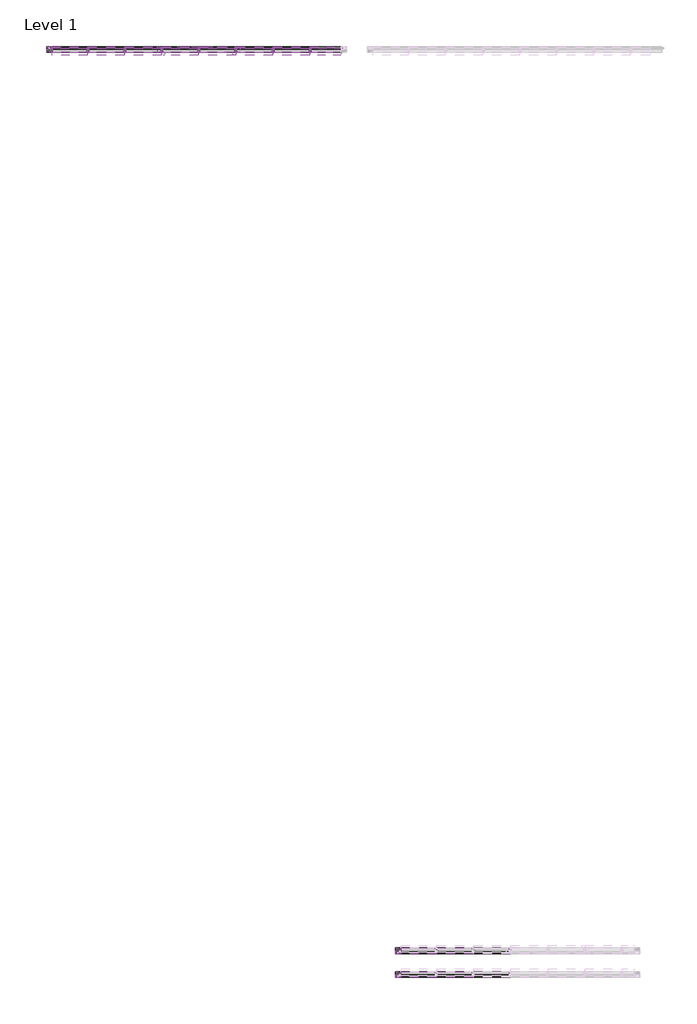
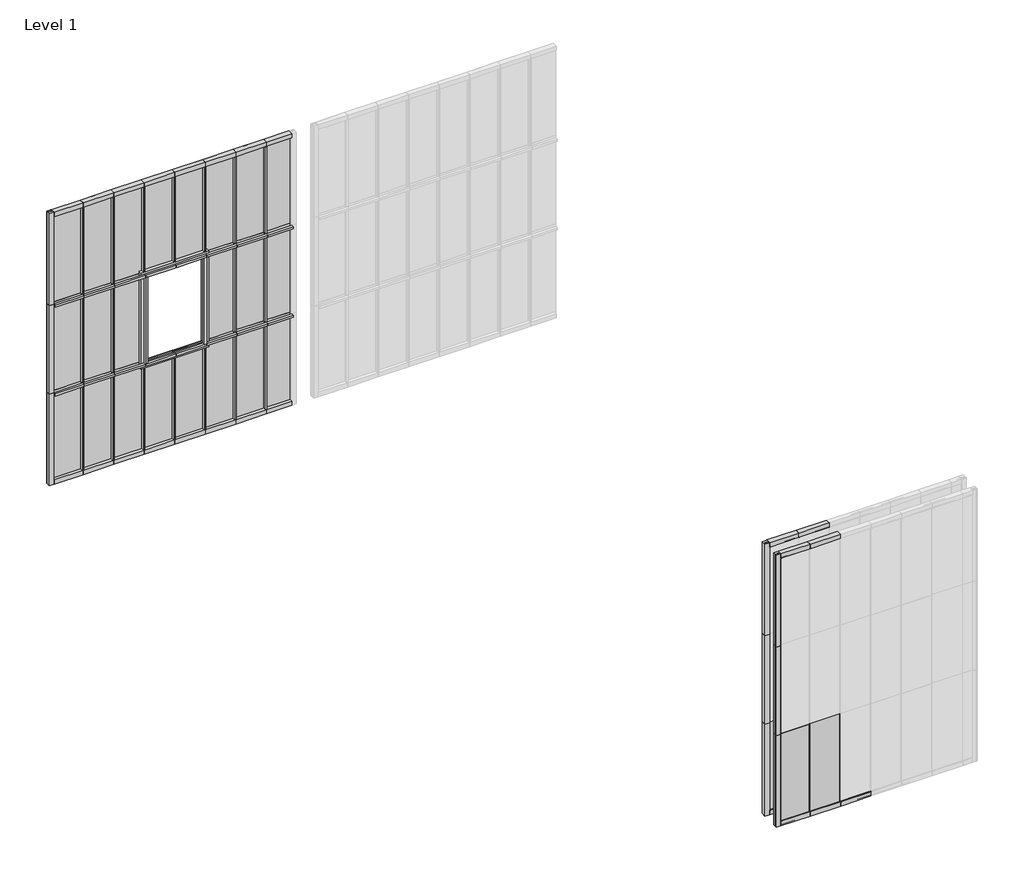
# One storey, part 1 of 3: 74 members, 27 plates.
"""IFC4 building model written with IfcOpenShell, lengths in millimetres."""

from ifc_helpers import new_model, si_unit, origin, place, context, project, spatial, transform, mapped, element, save
from components import rectangular_mullion_8ffd4793, rectangular_mullion_ef4c3dbc, rectangular_mullion_a341a077, rectangular_mullion_7fd34434, rectangular_mullion_f4b86b5b, rectangular_mullion_f51daa18, rectangular_mullion_e8e8685e, rectangular_mullion_af7c33be, rectangular_mullion_9c042f3e, rectangular_mullion_367668c4, rectangular_mullion_1778ee46, rectangular_mullion_ea144f86, rectangular_mullion_4a3f3de7, rectangular_mullion_05b556cc, rectangular_mullion_7f2ec0c3, rectangular_mullion_879f446c, rectangular_mullion_d35b6d32, rectangular_mullion_5309cee7, plate_8215ef0c, plate_1633828d, plate_0e341a54, plate_991e255f

model = new_model("IFC4")

# Units and contexts
model_context = context("Model", 3, world=origin())
ifc_project = project(units=[si_unit("LENGTHUNIT", "METRE", prefix="MILLI")], contexts=[model_context])

# Site, building, storey
site = spatial("IfcSite", under=ifc_project)
building = spatial("IfcBuilding", under=site)
storey = spatial("IfcBuildingStorey", under=building, Name="Level 1", Elevation=0.0)

# Members
placement = place(None, origin())
rectangular_mullion_shape = rectangular_mullion_8ffd4793(model_context)
element("IfcMember", 1, ObjectType="Rectangular Mullion : Danpal_NM_InetrnalV-Mullion", at=placement, inside=storey, context=model_context, shape_type="MappedRepresentation", body=[
    mapped(rectangular_mullion_shape, transform((1883.7454106, 2937.5512666, 81.8779002), x_axis=(1.0, 0.0, 0.0), y_axis=(0.0, -1.0, 0.0), z_axis=(0.0, 0.0, -1.0))),
])
element("IfcMember", 2, ObjectType="Rectangular Mullion : Danpal_NM_InetrnalV-Mullion", at=placement, inside=storey, context=model_context, shape_type="MappedRepresentation", body=[
    mapped(rectangular_mullion_shape, transform((1352.5454106, 2937.5512666, 81.8779002), x_axis=(1.0, 0.0, 0.0), y_axis=(0.0, -1.0, 0.0), z_axis=(0.0, 0.0, -1.0))),
])
element("IfcMember", 3, ObjectType="Rectangular Mullion : Danpal_NM_InetrnalV-Mullion", at=placement, inside=storey, context=model_context, shape_type="MappedRepresentation", body=[
    mapped(rectangular_mullion_shape, transform((1883.7454106, 2597.5512666, 81.8779002), x_axis=(1.0, 0.0, 0.0), y_axis=(0.0, -1.0, 0.0), z_axis=(0.0, 0.0, -1.0))),
])
rectangular_mullion_2_shape = rectangular_mullion_ef4c3dbc(model_context)
element("IfcMember", 4, ObjectType="Rectangular Mullion : Danpal_NM_End-Mullion_B1", at=placement, inside=storey, context=model_context, shape_type="MappedRepresentation", body=[
    mapped(rectangular_mullion_2_shape, transform((764.2822678, 2937.5512666, 5000.0), x_axis=(-1.0, 0.0, 0.0), y_axis=(0.0, -1.0, 0.0), z_axis=(0.0, 0.0, 1.0))),
])
element("IfcMember", 5, ObjectType="Rectangular Mullion : Danpal_NM_End-Mullion_B1", at=placement, inside=storey, context=model_context, shape_type="MappedRepresentation", body=[
    mapped(rectangular_mullion_2_shape, transform((764.2822678, 2597.5512666, 5000.0), x_axis=(-1.0, 0.0, 0.0), y_axis=(0.0, -1.0, 0.0), z_axis=(0.0, 0.0, 1.0))),
])
rectangular_mullion_3_shape = rectangular_mullion_a341a077(model_context)
element("IfcMember", 6, ObjectType="Rectangular Mullion : Danpal_NM_End-Mullion_B1", at=placement, inside=storey, context=model_context, shape_type="MappedRepresentation", body=[
    mapped(rectangular_mullion_3_shape, transform((764.2822678, 2937.5512666, 1686.1107298), x_axis=(-1.0, 0.0, 0.0), y_axis=(0.0, -1.0, 0.0), z_axis=(0.0, 0.0, 1.0))),
])
element("IfcMember", 7, ObjectType="Rectangular Mullion : Danpal_NM_End-Mullion_B1", at=placement, inside=storey, context=model_context, shape_type="MappedRepresentation", body=[
    mapped(rectangular_mullion_3_shape, transform((764.2822678, 2597.5512666, 1686.1107298), x_axis=(-1.0, 0.0, 0.0), y_axis=(0.0, -1.0, 0.0), z_axis=(0.0, 0.0, 1.0))),
])
rectangular_mullion_4_shape = rectangular_mullion_7fd34434(model_context)
element("IfcMember", 8, ObjectType="Rectangular Mullion : Danpal_NM_End-Mullion_B1", at=placement, inside=storey, context=model_context, shape_type="MappedRepresentation", body=[
    mapped(rectangular_mullion_4_shape, transform((764.2822678, 2937.5512666, 3315.1583168), x_axis=(-1.0, 0.0, 0.0), y_axis=(0.0, -1.0, 0.0), z_axis=(0.0, 0.0, 1.0))),
])
element("IfcMember", 9, ObjectType="Rectangular Mullion : Danpal_NM_End-Mullion_B1", at=placement, inside=storey, context=model_context, shape_type="MappedRepresentation", body=[
    mapped(rectangular_mullion_4_shape, transform((764.2822678, 2597.5512666, 3315.1583168), x_axis=(-1.0, 0.0, 0.0), y_axis=(0.0, -1.0, 0.0), z_axis=(0.0, 0.0, 1.0))),
])
rectangular_mullion_5_shape = rectangular_mullion_f4b86b5b(model_context)
element("IfcMember", 10, ObjectType="Rectangular Mullion : Danpal_NM_End-Mullion_B2", at=placement, inside=storey, context=model_context, shape_type="MappedRepresentation", body=[
    mapped(rectangular_mullion_5_shape, transform((-2053.8545894, 15897.5512666, 5000.0), x_axis=(0.0, 0.0, 1.0), y_axis=(0.0, -1.0, 0.0), z_axis=(1.0, 0.0, 0.0))),
])
element("IfcMember", 11, ObjectType="Rectangular Mullion : Danpal_NM_End-Mullion_B2", at=placement, inside=storey, context=model_context, shape_type="MappedRepresentation", body=[
    mapped(rectangular_mullion_5_shape, transform((-1522.6545894, 15897.5512666, 5000.0), x_axis=(0.0, 0.0, 1.0), y_axis=(0.0, -1.0, 0.0), z_axis=(1.0, 0.0, 0.0))),
])
element("IfcMember", 12, ObjectType="Rectangular Mullion : Danpal_NM_End-Mullion_B2", at=placement, inside=storey, context=model_context, shape_type="MappedRepresentation", body=[
    mapped(rectangular_mullion_5_shape, transform((-991.4545894, 15897.5512666, 5000.0), x_axis=(0.0, 0.0, 1.0), y_axis=(0.0, -1.0, 0.0), z_axis=(1.0, 0.0, 0.0))),
])
element("IfcMember", 13, ObjectType="Rectangular Mullion : Danpal_NM_End-Mullion_B2", at=placement, inside=storey, context=model_context, shape_type="MappedRepresentation", body=[
    mapped(rectangular_mullion_5_shape, transform((-460.2545894, 15897.5512666, 5000.0), x_axis=(0.0, 0.0, 1.0), y_axis=(0.0, -1.0, 0.0), z_axis=(1.0, 0.0, 0.0))),
])
element("IfcMember", 14, ObjectType="Rectangular Mullion : Danpal_NM_End-Mullion_B2", at=placement, inside=storey, context=model_context, shape_type="MappedRepresentation", body=[
    mapped(rectangular_mullion_5_shape, transform((-2585.0545894, 15897.5512666, 5000.0), x_axis=(0.0, 0.0, 1.0), y_axis=(0.0, -1.0, 0.0), z_axis=(1.0, 0.0, 0.0))),
])
element("IfcMember", 15, ObjectType="Rectangular Mullion : Danpal_NM_End-Mullion_B2", at=placement, inside=storey, context=model_context, shape_type="MappedRepresentation", body=[
    mapped(rectangular_mullion_5_shape, transform((-3116.2545894, 15897.5512666, 5000.0), x_axis=(0.0, 0.0, 1.0), y_axis=(0.0, -1.0, 0.0), z_axis=(1.0, 0.0, 0.0))),
])
element("IfcMember", 16, ObjectType="Rectangular Mullion : Danpal_NM_End-Mullion_B1", at=placement, inside=storey, context=model_context, shape_type="MappedRepresentation", body=[
    mapped(rectangular_mullion_5_shape, transform((-2053.8545894, 15897.5512666, 0.0), x_axis=(0.0, 0.0, -1.0), y_axis=(0.0, -1.0, 0.0), z_axis=(-1.0, 0.0, 0.0))),
])
element("IfcMember", 17, ObjectType="Rectangular Mullion : Danpal_NM_End-Mullion_B1", at=placement, inside=storey, context=model_context, shape_type="MappedRepresentation", body=[
    mapped(rectangular_mullion_5_shape, transform((-1522.6545894, 15897.5512666, 0.0), x_axis=(0.0, 0.0, -1.0), y_axis=(0.0, -1.0, 0.0), z_axis=(-1.0, 0.0, 0.0))),
])
element("IfcMember", 18, ObjectType="Rectangular Mullion : Danpal_NM_End-Mullion_B1", at=placement, inside=storey, context=model_context, shape_type="MappedRepresentation", body=[
    mapped(rectangular_mullion_5_shape, transform((-991.4545894, 15897.5512666, 0.0), x_axis=(0.0, 0.0, -1.0), y_axis=(0.0, -1.0, 0.0), z_axis=(-1.0, 0.0, 0.0))),
])
element("IfcMember", 19, ObjectType="Rectangular Mullion : Danpal_NM_End-Mullion_B1", at=placement, inside=storey, context=model_context, shape_type="MappedRepresentation", body=[
    mapped(rectangular_mullion_5_shape, transform((-2585.0545894, 15897.5512666, 0.0), x_axis=(0.0, 0.0, -1.0), y_axis=(0.0, -1.0, 0.0), z_axis=(-1.0, 0.0, 0.0))),
])
element("IfcMember", 20, ObjectType="Rectangular Mullion : Danpal_NM_End-Mullion_B1", at=placement, inside=storey, context=model_context, shape_type="MappedRepresentation", body=[
    mapped(rectangular_mullion_5_shape, transform((-3116.2545894, 15897.5512666, 0.0), x_axis=(0.0, 0.0, -1.0), y_axis=(0.0, -1.0, 0.0), z_axis=(-1.0, 0.0, 0.0))),
])
element("IfcMember", 21, ObjectType="Rectangular Mullion : Danpal_NM_End-Mullion_B1", at=placement, inside=storey, context=model_context, shape_type="MappedRepresentation", body=[
    mapped(rectangular_mullion_5_shape, transform((-3647.4545894, 15897.5512666, 0.0), x_axis=(0.0, 0.0, -1.0), y_axis=(0.0, -1.0, 0.0), z_axis=(-1.0, 0.0, 0.0))),
])
rectangular_mullion_6_shape = rectangular_mullion_f51daa18(model_context)
element("IfcMember", 22, ObjectType="Rectangular Mullion : Danpal_NM_MiddleH-Mullion", at=placement, inside=storey, context=model_context, shape_type="MappedRepresentation", body=[
    mapped(rectangular_mullion_6_shape, transform((-2585.0545894, 15897.5512666, 1686.1107298), x_axis=(0.0, 0.0, 1.0), y_axis=(0.0, -1.0, 0.0), z_axis=(1.0, 0.0, 0.0))),
])
element("IfcMember", 23, ObjectType="Rectangular Mullion : Danpal_NM_MiddleH-Mullion", at=placement, inside=storey, context=model_context, shape_type="MappedRepresentation", body=[
    mapped(rectangular_mullion_6_shape, transform((-2053.8545894, 15897.5512666, 1686.1107298), x_axis=(0.0, 0.0, 1.0), y_axis=(0.0, -1.0, 0.0), z_axis=(1.0, 0.0, 0.0))),
])
element("IfcMember", 24, ObjectType="Rectangular Mullion : Danpal_NM_MiddleH-Mullion", at=placement, inside=storey, context=model_context, shape_type="MappedRepresentation", body=[
    mapped(rectangular_mullion_6_shape, transform((-1522.6545894, 15897.5512666, 1686.1107298), x_axis=(0.0, 0.0, 1.0), y_axis=(0.0, -1.0, 0.0), z_axis=(1.0, 0.0, 0.0))),
])
element("IfcMember", 25, ObjectType="Rectangular Mullion : Danpal_NM_MiddleH-Mullion", at=placement, inside=storey, context=model_context, shape_type="MappedRepresentation", body=[
    mapped(rectangular_mullion_6_shape, transform((-991.4545894, 15897.5512666, 1686.1107298), x_axis=(0.0, 0.0, 1.0), y_axis=(0.0, -1.0, 0.0), z_axis=(1.0, 0.0, 0.0))),
])
element("IfcMember", 26, ObjectType="Rectangular Mullion : Danpal_NM_MiddleH-Mullion", at=placement, inside=storey, context=model_context, shape_type="MappedRepresentation", body=[
    mapped(rectangular_mullion_6_shape, transform((-460.2545894, 15897.5512666, 1686.1107298), x_axis=(0.0, 0.0, 1.0), y_axis=(0.0, -1.0, 0.0), z_axis=(1.0, 0.0, 0.0))),
])
element("IfcMember", 27, ObjectType="Rectangular Mullion : Danpal_NM_MiddleH-Mullion", at=placement, inside=storey, context=model_context, shape_type="MappedRepresentation", body=[
    mapped(rectangular_mullion_6_shape, transform((-2585.0545894, 15897.5512666, 3315.1583168), x_axis=(0.0, 0.0, 1.0), y_axis=(0.0, -1.0, 0.0), z_axis=(1.0, 0.0, 0.0))),
])
element("IfcMember", 28, ObjectType="Rectangular Mullion : Danpal_NM_MiddleH-Mullion", at=placement, inside=storey, context=model_context, shape_type="MappedRepresentation", body=[
    mapped(rectangular_mullion_6_shape, transform((-2053.8545894, 15897.5512666, 3315.1583168), x_axis=(0.0, 0.0, 1.0), y_axis=(0.0, -1.0, 0.0), z_axis=(1.0, 0.0, 0.0))),
])
element("IfcMember", 29, ObjectType="Rectangular Mullion : Danpal_NM_MiddleH-Mullion", at=placement, inside=storey, context=model_context, shape_type="MappedRepresentation", body=[
    mapped(rectangular_mullion_6_shape, transform((-1522.6545894, 15897.5512666, 3315.1583168), x_axis=(0.0, 0.0, 1.0), y_axis=(0.0, -1.0, 0.0), z_axis=(1.0, 0.0, 0.0))),
])
element("IfcMember", 30, ObjectType="Rectangular Mullion : Danpal_NM_MiddleH-Mullion", at=placement, inside=storey, context=model_context, shape_type="MappedRepresentation", body=[
    mapped(rectangular_mullion_6_shape, transform((-991.4545894, 15897.5512666, 3315.1583168), x_axis=(0.0, 0.0, 1.0), y_axis=(0.0, -1.0, 0.0), z_axis=(1.0, 0.0, 0.0))),
])
element("IfcMember", 31, ObjectType="Rectangular Mullion : Danpal_NM_MiddleH-Mullion", at=placement, inside=storey, context=model_context, shape_type="MappedRepresentation", body=[
    mapped(rectangular_mullion_6_shape, transform((-460.2545894, 15897.5512666, 3315.1583168), x_axis=(0.0, 0.0, 1.0), y_axis=(0.0, -1.0, 0.0), z_axis=(1.0, 0.0, 0.0))),
])
element("IfcMember", 32, ObjectType="Rectangular Mullion : Danpal_NM_MiddleH-Mullion", at=placement, inside=storey, context=model_context, shape_type="MappedRepresentation", body=[
    mapped(rectangular_mullion_6_shape, transform((-3116.2545894, 15897.5512666, 1686.1107298), x_axis=(0.0, 0.0, 1.0), y_axis=(0.0, -1.0, 0.0), z_axis=(1.0, 0.0, 0.0))),
])
element("IfcMember", 33, ObjectType="Rectangular Mullion : Danpal_NM_MiddleH-Mullion", at=placement, inside=storey, context=model_context, shape_type="MappedRepresentation", body=[
    mapped(rectangular_mullion_6_shape, transform((-3116.2545894, 15897.5512666, 3315.1583168), x_axis=(0.0, 0.0, 1.0), y_axis=(0.0, -1.0, 0.0), z_axis=(1.0, 0.0, 0.0))),
])
rectangular_mullion_7_shape = rectangular_mullion_e8e8685e(model_context)
element("IfcMember", 34, ObjectType="Rectangular Mullion : Danpal_NM_End-Mullion_B1", at=placement, inside=storey, context=model_context, shape_type="MappedRepresentation", body=[
    mapped(rectangular_mullion_7_shape, transform((-4153.839832, 15897.5512666, 0.0), x_axis=(0.0, 0.0, -1.0), y_axis=(0.0, -1.0, 0.0), z_axis=(-1.0, 0.0, 0.0))),
])
rectangular_mullion_8_shape = rectangular_mullion_af7c33be(model_context)
element("IfcMember", 35, ObjectType="Rectangular Mullion : Danpal_NM_InetrnalV-Mullion", at=placement, inside=storey, context=model_context, shape_type="MappedRepresentation", body=[
    mapped(rectangular_mullion_8_shape, transform((-2053.8545894, 15897.5512666, 81.8779002), x_axis=(1.0, 0.0, 0.0), y_axis=(0.0, -1.0, 0.0), z_axis=(0.0, 0.0, -1.0))),
])
element("IfcMember", 36, ObjectType="Rectangular Mullion : Danpal_NM_InetrnalV-Mullion", at=placement, inside=storey, context=model_context, shape_type="MappedRepresentation", body=[
    mapped(rectangular_mullion_8_shape, transform((-1522.6545894, 15897.5512666, 81.8779002), x_axis=(1.0, 0.0, 0.0), y_axis=(0.0, -1.0, 0.0), z_axis=(0.0, 0.0, -1.0))),
])
element("IfcMember", 37, ObjectType="Rectangular Mullion : Danpal_NM_InetrnalV-Mullion", at=placement, inside=storey, context=model_context, shape_type="MappedRepresentation", body=[
    mapped(rectangular_mullion_8_shape, transform((-991.4545894, 15897.5512666, 81.8779002), x_axis=(1.0, 0.0, 0.0), y_axis=(0.0, -1.0, 0.0), z_axis=(0.0, 0.0, -1.0))),
])
element("IfcMember", 38, ObjectType="Rectangular Mullion : Danpal_NM_InetrnalV-Mullion", at=placement, inside=storey, context=model_context, shape_type="MappedRepresentation", body=[
    mapped(rectangular_mullion_8_shape, transform((-460.2545894, 15897.5512666, 81.8779002), x_axis=(1.0, 0.0, 0.0), y_axis=(0.0, -1.0, 0.0), z_axis=(0.0, 0.0, -1.0))),
])
element("IfcMember", 39, ObjectType="Rectangular Mullion : Danpal_NM_InetrnalV-Mullion", at=placement, inside=storey, context=model_context, shape_type="MappedRepresentation", body=[
    mapped(rectangular_mullion_8_shape, transform((-2585.0545894, 15897.5512666, 81.8779002), x_axis=(1.0, 0.0, 0.0), y_axis=(0.0, -1.0, 0.0), z_axis=(0.0, 0.0, -1.0))),
])
element("IfcMember", 40, ObjectType="Rectangular Mullion : Danpal_NM_InetrnalV-Mullion", at=placement, inside=storey, context=model_context, shape_type="MappedRepresentation", body=[
    mapped(rectangular_mullion_8_shape, transform((-3116.2545894, 15897.5512666, 81.8779002), x_axis=(1.0, 0.0, 0.0), y_axis=(0.0, -1.0, 0.0), z_axis=(0.0, 0.0, -1.0))),
])
element("IfcMember", 41, ObjectType="Rectangular Mullion : Danpal_NM_InetrnalV-Mullion", at=placement, inside=storey, context=model_context, shape_type="MappedRepresentation", body=[
    mapped(rectangular_mullion_8_shape, transform((-3647.4545894, 15897.5512666, 81.8779002), x_axis=(1.0, 0.0, 0.0), y_axis=(0.0, -1.0, 0.0), z_axis=(0.0, 0.0, -1.0))),
])
rectangular_mullion_9_shape = rectangular_mullion_9c042f3e(model_context)
element("IfcMember", 42, ObjectType="Rectangular Mullion : Danpal_NM_InetrnalV-Mullion", at=placement, inside=storey, context=model_context, shape_type="MappedRepresentation", body=[
    mapped(rectangular_mullion_9_shape, transform((-1522.6545894, 15897.5512666, 1686.1107298), x_axis=(1.0, 0.0, 0.0), y_axis=(0.0, -1.0, 0.0), z_axis=(0.0, 0.0, -1.0))),
])
element("IfcMember", 43, ObjectType="Rectangular Mullion : Danpal_NM_InetrnalV-Mullion", at=placement, inside=storey, context=model_context, shape_type="MappedRepresentation", body=[
    mapped(rectangular_mullion_9_shape, transform((-991.4545894, 15897.5512666, 1686.1107298), x_axis=(1.0, 0.0, 0.0), y_axis=(0.0, -1.0, 0.0), z_axis=(0.0, 0.0, -1.0))),
])
element("IfcMember", 44, ObjectType="Rectangular Mullion : Danpal_NM_InetrnalV-Mullion", at=placement, inside=storey, context=model_context, shape_type="MappedRepresentation", body=[
    mapped(rectangular_mullion_9_shape, transform((-460.2545894, 15897.5512666, 1686.1107298), x_axis=(1.0, 0.0, 0.0), y_axis=(0.0, -1.0, 0.0), z_axis=(0.0, 0.0, -1.0))),
])
element("IfcMember", 45, ObjectType="Rectangular Mullion : Danpal_NM_InetrnalV-Mullion", at=placement, inside=storey, context=model_context, shape_type="MappedRepresentation", body=[
    mapped(rectangular_mullion_9_shape, transform((-2585.0545894, 15897.5512666, 1686.1107298), x_axis=(1.0, 0.0, 0.0), y_axis=(0.0, -1.0, 0.0), z_axis=(0.0, 0.0, -1.0))),
])
element("IfcMember", 46, ObjectType="Rectangular Mullion : Danpal_NM_InetrnalV-Mullion", at=placement, inside=storey, context=model_context, shape_type="MappedRepresentation", body=[
    mapped(rectangular_mullion_9_shape, transform((-3116.2545894, 15897.5512666, 1686.1107298), x_axis=(1.0, 0.0, 0.0), y_axis=(0.0, -1.0, 0.0), z_axis=(0.0, 0.0, -1.0))),
])
element("IfcMember", 47, ObjectType="Rectangular Mullion : Danpal_NM_InetrnalV-Mullion", at=placement, inside=storey, context=model_context, shape_type="MappedRepresentation", body=[
    mapped(rectangular_mullion_9_shape, transform((-3647.4545894, 15897.5512666, 1686.1107298), x_axis=(1.0, 0.0, 0.0), y_axis=(0.0, -1.0, 0.0), z_axis=(0.0, 0.0, -1.0))),
])
rectangular_mullion_10_shape = rectangular_mullion_367668c4(model_context)
element("IfcMember", 48, ObjectType="Rectangular Mullion : Danpal_NM_InetrnalV-Mullion", at=placement, inside=storey, context=model_context, shape_type="MappedRepresentation", body=[
    mapped(rectangular_mullion_10_shape, transform((-2053.8545894, 15897.5512666, 3315.1583168), x_axis=(1.0, 0.0, 0.0), y_axis=(0.0, -1.0, 0.0), z_axis=(0.0, 0.0, -1.0))),
])
element("IfcMember", 49, ObjectType="Rectangular Mullion : Danpal_NM_InetrnalV-Mullion", at=placement, inside=storey, context=model_context, shape_type="MappedRepresentation", body=[
    mapped(rectangular_mullion_10_shape, transform((-1522.6545894, 15897.5512666, 3315.1583168), x_axis=(1.0, 0.0, 0.0), y_axis=(0.0, -1.0, 0.0), z_axis=(0.0, 0.0, -1.0))),
])
element("IfcMember", 50, ObjectType="Rectangular Mullion : Danpal_NM_InetrnalV-Mullion", at=placement, inside=storey, context=model_context, shape_type="MappedRepresentation", body=[
    mapped(rectangular_mullion_10_shape, transform((-991.4545894, 15897.5512666, 3315.1583168), x_axis=(1.0, 0.0, 0.0), y_axis=(0.0, -1.0, 0.0), z_axis=(0.0, 0.0, -1.0))),
])
element("IfcMember", 51, ObjectType="Rectangular Mullion : Danpal_NM_InetrnalV-Mullion", at=placement, inside=storey, context=model_context, shape_type="MappedRepresentation", body=[
    mapped(rectangular_mullion_10_shape, transform((-460.2545894, 15897.5512666, 3315.1583168), x_axis=(1.0, 0.0, 0.0), y_axis=(0.0, -1.0, 0.0), z_axis=(0.0, 0.0, -1.0))),
])
element("IfcMember", 52, ObjectType="Rectangular Mullion : Danpal_NM_InetrnalV-Mullion", at=placement, inside=storey, context=model_context, shape_type="MappedRepresentation", body=[
    mapped(rectangular_mullion_10_shape, transform((-2585.0545894, 15897.5512666, 3315.1583168), x_axis=(1.0, 0.0, 0.0), y_axis=(0.0, -1.0, 0.0), z_axis=(0.0, 0.0, -1.0))),
])
element("IfcMember", 53, ObjectType="Rectangular Mullion : Danpal_NM_InetrnalV-Mullion", at=placement, inside=storey, context=model_context, shape_type="MappedRepresentation", body=[
    mapped(rectangular_mullion_10_shape, transform((-3116.2545894, 15897.5512666, 3315.1583168), x_axis=(1.0, 0.0, 0.0), y_axis=(0.0, -1.0, 0.0), z_axis=(0.0, 0.0, -1.0))),
])
element("IfcMember", 54, ObjectType="Rectangular Mullion : Danpal_NM_InetrnalV-Mullion", at=placement, inside=storey, context=model_context, shape_type="MappedRepresentation", body=[
    mapped(rectangular_mullion_10_shape, transform((-3647.4545894, 15897.5512666, 3315.1583168), x_axis=(1.0, 0.0, 0.0), y_axis=(0.0, -1.0, 0.0), z_axis=(0.0, 0.0, -1.0))),
])
element("IfcMember", 55, ObjectType="Rectangular Mullion : Danpal_NM_End-Mullion_B2", at=placement, inside=storey, context=model_context, shape_type="MappedRepresentation", body=[
    mapped(rectangular_mullion_7_shape, transform((-3647.4545894, 15897.5512666, 5000.0), x_axis=(0.0, 0.0, 1.0), y_axis=(0.0, -1.0, 0.0), z_axis=(1.0, 0.0, 0.0))),
])
rectangular_mullion_11_shape = rectangular_mullion_1778ee46(model_context)
element("IfcMember", 56, ObjectType="Rectangular Mullion : Danpal_NM_End-Mullion_B1", at=placement, inside=storey, context=model_context, shape_type="MappedRepresentation", body=[
    mapped(rectangular_mullion_11_shape, transform((-460.2545894, 15897.5512666, 0.0), x_axis=(0.0, 0.0, -1.0), y_axis=(0.0, -1.0, 0.0), z_axis=(-1.0, 0.0, 0.0))),
])
rectangular_mullion_12_shape = rectangular_mullion_ea144f86(model_context)
element("IfcMember", 57, ObjectType="Rectangular Mullion : Danpal_NM_MiddleH-Mullion", at=placement, inside=storey, context=model_context, shape_type="MappedRepresentation", body=[
    mapped(rectangular_mullion_12_shape, transform((-17.5956324, 15897.5512666, 1686.1107298), x_axis=(0.0, 0.0, 1.0), y_axis=(0.0, -1.0, 0.0), z_axis=(1.0, 0.0, 0.0))),
])
element("IfcMember", 58, ObjectType="Rectangular Mullion : Danpal_NM_MiddleH-Mullion", at=placement, inside=storey, context=model_context, shape_type="MappedRepresentation", body=[
    mapped(rectangular_mullion_12_shape, transform((-17.5956324, 15897.5512666, 3315.1583168), x_axis=(0.0, 0.0, 1.0), y_axis=(0.0, -1.0, 0.0), z_axis=(1.0, 0.0, 0.0))),
])
rectangular_mullion_13_shape = rectangular_mullion_4a3f3de7(model_context)
element("IfcMember", 59, ObjectType="Rectangular Mullion : Danpal_NM_MiddleH-Mullion", at=placement, inside=storey, context=model_context, shape_type="MappedRepresentation", body=[
    mapped(rectangular_mullion_13_shape, transform((-3647.4545894, 15897.5512666, 1686.1107298), x_axis=(0.0, 0.0, 1.0), y_axis=(0.0, -1.0, 0.0), z_axis=(1.0, 0.0, 0.0))),
])
element("IfcMember", 60, ObjectType="Rectangular Mullion : Danpal_NM_MiddleH-Mullion", at=placement, inside=storey, context=model_context, shape_type="MappedRepresentation", body=[
    mapped(rectangular_mullion_13_shape, transform((-3647.4545894, 15897.5512666, 3315.1583168), x_axis=(0.0, 0.0, 1.0), y_axis=(0.0, -1.0, 0.0), z_axis=(1.0, 0.0, 0.0))),
])
rectangular_mullion_14_shape = rectangular_mullion_05b556cc(model_context)
element("IfcMember", 61, ObjectType="Rectangular Mullion : Danpal_NM_End-Mullion_B1", at=placement, inside=storey, context=model_context, shape_type="MappedRepresentation", body=[
    mapped(rectangular_mullion_14_shape, transform((-4235.7177322, 15897.5512666, 5000.0), x_axis=(-1.0, 0.0, 0.0), y_axis=(0.0, -1.0, 0.0), z_axis=(0.0, 0.0, 1.0))),
])
rectangular_mullion_15_shape = rectangular_mullion_7f2ec0c3(model_context)
element("IfcMember", 62, ObjectType="Rectangular Mullion : Danpal_NM_End-Mullion_B1", at=placement, inside=storey, context=model_context, shape_type="MappedRepresentation", body=[
    mapped(rectangular_mullion_15_shape, transform((-4235.7177322, 15897.5512666, 3315.1583168), x_axis=(-1.0, 0.0, 0.0), y_axis=(0.0, -1.0, 0.0), z_axis=(0.0, 0.0, 1.0))),
])
rectangular_mullion_16_shape = rectangular_mullion_879f446c(model_context)
element("IfcMember", 63, ObjectType="Rectangular Mullion : Danpal_NM_End-Mullion_B1", at=placement, inside=storey, context=model_context, shape_type="MappedRepresentation", body=[
    mapped(rectangular_mullion_16_shape, transform((-4235.7177322, 15897.5512666, 1686.1107298), x_axis=(-1.0, 0.0, 0.0), y_axis=(0.0, -1.0, 0.0), z_axis=(0.0, 0.0, 1.0))),
])
element("IfcMember", 64, ObjectType="Rectangular Mullion : Danpal_NM_End-Mullion_B2", at=placement, inside=storey, context=model_context, shape_type="MappedRepresentation", body=[
    mapped(rectangular_mullion_11_shape, transform((-17.5956324, 15897.5512666, 5000.0), x_axis=(0.0, 0.0, 1.0), y_axis=(0.0, -1.0, 0.0), z_axis=(1.0, 0.0, 0.0))),
])
rectangular_mullion_17_shape = rectangular_mullion_d35b6d32(model_context)
element("IfcMember", 65, ObjectType="Rectangular Mullion : Danpal_NM_End-Mullion_B2", at=placement, inside=storey, context=model_context, shape_type="MappedRepresentation", body=[
    mapped(rectangular_mullion_17_shape, transform((1883.7454106, 2937.5512666, 5000.0), x_axis=(0.0, 0.0, 1.0), y_axis=(0.0, -1.0, 0.0), z_axis=(1.0, 0.0, 0.0))),
])
element("IfcMember", 66, ObjectType="Rectangular Mullion : Danpal_NM_End-Mullion_B2", at=placement, inside=storey, context=model_context, shape_type="MappedRepresentation", body=[
    mapped(rectangular_mullion_17_shape, transform((1883.7454106, 2597.5512666, 5000.0), x_axis=(0.0, 0.0, 1.0), y_axis=(0.0, -1.0, 0.0), z_axis=(1.0, 0.0, 0.0))),
])
rectangular_mullion_18_shape = rectangular_mullion_5309cee7(model_context)
element("IfcMember", 67, ObjectType="Rectangular Mullion : Danpal_NM_End-Mullion_B1", at=placement, inside=storey, context=model_context, shape_type="MappedRepresentation", body=[
    mapped(rectangular_mullion_18_shape, transform((846.160168, 2937.5512666, 0.0), x_axis=(0.0, 0.0, -1.0), y_axis=(0.0, -1.0, 0.0), z_axis=(-1.0, 0.0, 0.0))),
])
element("IfcMember", 68, ObjectType="Rectangular Mullion : Danpal_NM_End-Mullion_B1", at=placement, inside=storey, context=model_context, shape_type="MappedRepresentation", body=[
    mapped(rectangular_mullion_18_shape, transform((846.160168, 2597.5512666, 0.0), x_axis=(0.0, 0.0, -1.0), y_axis=(0.0, -1.0, 0.0), z_axis=(-1.0, 0.0, 0.0))),
])
element("IfcMember", 69, ObjectType="Rectangular Mullion : Danpal_NM_End-Mullion_B1", at=placement, inside=storey, context=model_context, shape_type="MappedRepresentation", body=[
    mapped(rectangular_mullion_17_shape, transform((1883.7454106, 2937.5512666, 0.0), x_axis=(0.0, 0.0, -1.0), y_axis=(0.0, -1.0, 0.0), z_axis=(-1.0, 0.0, 0.0))),
])
element("IfcMember", 70, ObjectType="Rectangular Mullion : Danpal_NM_End-Mullion_B1", at=placement, inside=storey, context=model_context, shape_type="MappedRepresentation", body=[
    mapped(rectangular_mullion_17_shape, transform((1883.7454106, 2597.5512666, 0.0), x_axis=(0.0, 0.0, -1.0), y_axis=(0.0, -1.0, 0.0), z_axis=(-1.0, 0.0, 0.0))),
])
element("IfcMember", 71, ObjectType="Rectangular Mullion : Danpal_NM_End-Mullion_B1", at=placement, inside=storey, context=model_context, shape_type="MappedRepresentation", body=[
    mapped(rectangular_mullion_17_shape, transform((1352.5454106, 2937.5512666, 0.0), x_axis=(0.0, 0.0, -1.0), y_axis=(0.0, -1.0, 0.0), z_axis=(-1.0, 0.0, 0.0))),
])
element("IfcMember", 72, ObjectType="Rectangular Mullion : Danpal_NM_End-Mullion_B1", at=placement, inside=storey, context=model_context, shape_type="MappedRepresentation", body=[
    mapped(rectangular_mullion_17_shape, transform((1352.5454106, 2597.5512666, 0.0), x_axis=(0.0, 0.0, -1.0), y_axis=(0.0, -1.0, 0.0), z_axis=(-1.0, 0.0, 0.0))),
])
element("IfcMember", 73, ObjectType="Rectangular Mullion : Danpal_NM_End-Mullion_B2", at=placement, inside=storey, context=model_context, shape_type="MappedRepresentation", body=[
    mapped(rectangular_mullion_18_shape, transform((1352.5454106, 2937.5512666, 5000.0), x_axis=(0.0, 0.0, 1.0), y_axis=(0.0, -1.0, 0.0), z_axis=(1.0, 0.0, 0.0))),
])
element("IfcMember", 74, ObjectType="Rectangular Mullion : Danpal_NM_End-Mullion_B2", at=placement, inside=storey, context=model_context, shape_type="MappedRepresentation", body=[
    mapped(rectangular_mullion_18_shape, transform((1352.5454106, 2597.5512666, 5000.0), x_axis=(0.0, 0.0, 1.0), y_axis=(0.0, -1.0, 0.0), z_axis=(1.0, 0.0, 0.0))),
])

# Plates
plate_shape = plate_8215ef0c(model_context)
element("IfcPlate", 75, ObjectType="Walls_Curtain-Walls_Danpal_NM : Walls_Curtain-Walls_Danpal_NM", at=placement, inside=storey, context=model_context, shape_type="MappedRepresentation", body=[
    mapped(plate_shape, transform((1086.9454106, 2597.5512666, 57.0631428), x_axis=(1.0, 0.0, 0.0), y_axis=(0.0, 1.0, 0.0), z_axis=(0.0, 0.0, 1.0))),
])
element("IfcPlate", 76, ObjectType="Walls_Curtain-Walls_Danpal_NM : Walls_Curtain-Walls_Danpal_NM", at=placement, inside=storey, context=model_context, shape_type="MappedRepresentation", body=[
    mapped(plate_shape, transform((1086.9454106, 2937.5512666, 57.0631428), x_axis=(1.0, 0.0, 0.0), y_axis=(0.0, 1.0, 0.0), z_axis=(0.0, 0.0, 1.0))),
])
element("IfcPlate", 77, ObjectType="Walls_Curtain-Walls_Danpal_NM : Walls_Curtain-Walls_Danpal_NM", at=placement, inside=storey, context=model_context, shape_type="MappedRepresentation", body=[
    mapped(plate_shape, transform((1618.1454106, 2937.5512666, 57.0631428), x_axis=(1.0, 0.0, 0.0), y_axis=(0.0, 1.0, 0.0), z_axis=(0.0, 0.0, 1.0))),
])
element("IfcPlate", 78, ObjectType="Walls_Curtain-Walls_Danpal_NM : Walls_Curtain-Walls_Danpal_NM", at=placement, inside=storey, context=model_context, shape_type="MappedRepresentation", body=[
    mapped(plate_shape, transform((1618.1454106, 2597.5512666, 57.0631428), x_axis=(1.0, 0.0, 0.0), y_axis=(0.0, 1.0, 0.0), z_axis=(0.0, 0.0, 1.0))),
])
plate_2_shape = plate_1633828d(model_context)
element("IfcPlate", 79, ObjectType="Walls_Curtain-Walls_Danpal_NM : Walls_Curtain-Walls_Danpal_NM", at=placement, inside=storey, context=model_context, shape_type="MappedRepresentation", body=[
    mapped(plate_2_shape, transform((-3913.0545894, 15897.5512666, 57.0631428), x_axis=(1.0, 0.0, 0.0), y_axis=(0.0, 1.0, 0.0), z_axis=(0.0, 0.0, 1.0))),
])
element("IfcPlate", 80, ObjectType="Walls_Curtain-Walls_Danpal_NM : Walls_Curtain-Walls_Danpal_NM", at=placement, inside=storey, context=model_context, shape_type="MappedRepresentation", body=[
    mapped(plate_2_shape, transform((-1788.2545894, 15897.5512666, 57.0631428), x_axis=(1.0, 0.0, 0.0), y_axis=(0.0, 1.0, 0.0), z_axis=(0.0, 0.0, 1.0))),
])
element("IfcPlate", 81, ObjectType="Walls_Curtain-Walls_Danpal_NM : Walls_Curtain-Walls_Danpal_NM", at=placement, inside=storey, context=model_context, shape_type="MappedRepresentation", body=[
    mapped(plate_2_shape, transform((-1257.0545894, 15897.5512666, 57.0631428), x_axis=(1.0, 0.0, 0.0), y_axis=(0.0, 1.0, 0.0), z_axis=(0.0, 0.0, 1.0))),
])
element("IfcPlate", 82, ObjectType="Walls_Curtain-Walls_Danpal_NM : Walls_Curtain-Walls_Danpal_NM", at=placement, inside=storey, context=model_context, shape_type="MappedRepresentation", body=[
    mapped(plate_2_shape, transform((-725.8545894, 15897.5512666, 57.0631428), x_axis=(1.0, 0.0, 0.0), y_axis=(0.0, 1.0, 0.0), z_axis=(0.0, 0.0, 1.0))),
])
element("IfcPlate", 83, ObjectType="Walls_Curtain-Walls_Danpal_NM : Walls_Curtain-Walls_Danpal_NM", at=placement, inside=storey, context=model_context, shape_type="MappedRepresentation", body=[
    mapped(plate_2_shape, transform((-2319.4545894, 15897.5512666, 57.0631428), x_axis=(1.0, 0.0, 0.0), y_axis=(0.0, 1.0, 0.0), z_axis=(0.0, 0.0, 1.0))),
])
element("IfcPlate", 84, ObjectType="Walls_Curtain-Walls_Danpal_NM : Walls_Curtain-Walls_Danpal_NM", at=placement, inside=storey, context=model_context, shape_type="MappedRepresentation", body=[
    mapped(plate_2_shape, transform((-2850.6545894, 15897.5512666, 57.0631428), x_axis=(1.0, 0.0, 0.0), y_axis=(0.0, 1.0, 0.0), z_axis=(0.0, 0.0, 1.0))),
])
element("IfcPlate", 85, ObjectType="Walls_Curtain-Walls_Danpal_NM : Walls_Curtain-Walls_Danpal_NM", at=placement, inside=storey, context=model_context, shape_type="MappedRepresentation", body=[
    mapped(plate_2_shape, transform((-3913.0545894, 15897.5512666, 1686.1107298), x_axis=(1.0, 0.0, 0.0), y_axis=(0.0, 1.0, 0.0), z_axis=(0.0, 0.0, 1.0))),
])
element("IfcPlate", 86, ObjectType="Walls_Curtain-Walls_Danpal_NM : Walls_Curtain-Walls_Danpal_NM", at=placement, inside=storey, context=model_context, shape_type="MappedRepresentation", body=[
    mapped(plate_2_shape, transform((-2850.6545894, 15897.5512666, 1686.1107298), x_axis=(1.0, 0.0, 0.0), y_axis=(0.0, 1.0, 0.0), z_axis=(0.0, 0.0, 1.0))),
])
element("IfcPlate", 87, ObjectType="Walls_Curtain-Walls_Danpal_NM : Walls_Curtain-Walls_Danpal_NM", at=placement, inside=storey, context=model_context, shape_type="MappedRepresentation", body=[
    mapped(plate_2_shape, transform((-1257.0545894, 15897.5512666, 1686.1107298), x_axis=(1.0, 0.0, 0.0), y_axis=(0.0, 1.0, 0.0), z_axis=(0.0, 0.0, 1.0))),
])
element("IfcPlate", 88, ObjectType="Walls_Curtain-Walls_Danpal_NM : Walls_Curtain-Walls_Danpal_NM", at=placement, inside=storey, context=model_context, shape_type="MappedRepresentation", body=[
    mapped(plate_2_shape, transform((-725.8545894, 15897.5512666, 1686.1107298), x_axis=(1.0, 0.0, 0.0), y_axis=(0.0, 1.0, 0.0), z_axis=(0.0, 0.0, 1.0))),
])
element("IfcPlate", 89, ObjectType="Walls_Curtain-Walls_Danpal_NM : Walls_Curtain-Walls_Danpal_NM", at=placement, inside=storey, context=model_context, shape_type="MappedRepresentation", body=[
    mapped(plate_2_shape, transform((-3913.0545894, 15897.5512666, 3315.1583168), x_axis=(1.0, 0.0, 0.0), y_axis=(0.0, 1.0, 0.0), z_axis=(0.0, 0.0, 1.0))),
])
element("IfcPlate", 90, ObjectType="Walls_Curtain-Walls_Danpal_NM : Walls_Curtain-Walls_Danpal_NM", at=placement, inside=storey, context=model_context, shape_type="MappedRepresentation", body=[
    mapped(plate_2_shape, transform((-2850.6545894, 15897.5512666, 3315.1583168), x_axis=(1.0, 0.0, 0.0), y_axis=(0.0, 1.0, 0.0), z_axis=(0.0, 0.0, 1.0))),
])
element("IfcPlate", 91, ObjectType="Walls_Curtain-Walls_Danpal_NM : Walls_Curtain-Walls_Danpal_NM", at=placement, inside=storey, context=model_context, shape_type="MappedRepresentation", body=[
    mapped(plate_2_shape, transform((-2319.4545894, 15897.5512666, 3315.1583168), x_axis=(1.0, 0.0, 0.0), y_axis=(0.0, 1.0, 0.0), z_axis=(0.0, 0.0, 1.0))),
])
element("IfcPlate", 92, ObjectType="Walls_Curtain-Walls_Danpal_NM : Walls_Curtain-Walls_Danpal_NM", at=placement, inside=storey, context=model_context, shape_type="MappedRepresentation", body=[
    mapped(plate_2_shape, transform((-1788.2545894, 15897.5512666, 3315.1583168), x_axis=(1.0, 0.0, 0.0), y_axis=(0.0, 1.0, 0.0), z_axis=(0.0, 0.0, 1.0))),
])
element("IfcPlate", 93, ObjectType="Walls_Curtain-Walls_Danpal_NM : Walls_Curtain-Walls_Danpal_NM", at=placement, inside=storey, context=model_context, shape_type="MappedRepresentation", body=[
    mapped(plate_2_shape, transform((-1257.0545894, 15897.5512666, 3315.1583168), x_axis=(1.0, 0.0, 0.0), y_axis=(0.0, 1.0, 0.0), z_axis=(0.0, 0.0, 1.0))),
])
element("IfcPlate", 94, ObjectType="Walls_Curtain-Walls_Danpal_NM : Walls_Curtain-Walls_Danpal_NM", at=placement, inside=storey, context=model_context, shape_type="MappedRepresentation", body=[
    mapped(plate_2_shape, transform((-725.8545894, 15897.5512666, 3315.1583168), x_axis=(1.0, 0.0, 0.0), y_axis=(0.0, 1.0, 0.0), z_axis=(0.0, 0.0, 1.0))),
])
element("IfcPlate", 95, ObjectType="Walls_Curtain-Walls_Danpal_NM : Walls_Curtain-Walls_Danpal_NM", at=placement, inside=storey, context=model_context, shape_type="MappedRepresentation", body=[
    mapped(plate_2_shape, transform((-3381.8545894, 15897.5512666, 57.0631428), x_axis=(1.0, 0.0, 0.0), y_axis=(0.0, 1.0, 0.0), z_axis=(0.0, 0.0, 1.0))),
])
element("IfcPlate", 96, ObjectType="Walls_Curtain-Walls_Danpal_NM : Walls_Curtain-Walls_Danpal_NM", at=placement, inside=storey, context=model_context, shape_type="MappedRepresentation", body=[
    mapped(plate_2_shape, transform((-3381.8545894, 15897.5512666, 1686.1107298), x_axis=(1.0, 0.0, 0.0), y_axis=(0.0, 1.0, 0.0), z_axis=(0.0, 0.0, 1.0))),
])
element("IfcPlate", 97, ObjectType="Walls_Curtain-Walls_Danpal_NM : Walls_Curtain-Walls_Danpal_NM", at=placement, inside=storey, context=model_context, shape_type="MappedRepresentation", body=[
    mapped(plate_2_shape, transform((-3381.8545894, 15897.5512666, 3315.1583168), x_axis=(1.0, 0.0, 0.0), y_axis=(0.0, 1.0, 0.0), z_axis=(0.0, 0.0, 1.0))),
])
plate_3_shape = plate_0e341a54(model_context)
element("IfcPlate", 98, ObjectType="Walls_Curtain-Walls_Danpal_NM : Walls_Curtain-Walls_Danpal_NM", at=placement, inside=storey, context=model_context, shape_type="MappedRepresentation", body=[
    mapped(plate_3_shape, transform((-225.8832089, 15897.5512666, 57.0631428), x_axis=(1.0, 0.0, 0.0), y_axis=(0.0, 1.0, 0.0), z_axis=(0.0, 0.0, 1.0))),
])
element("IfcPlate", 99, ObjectType="Walls_Curtain-Walls_Danpal_NM : Walls_Curtain-Walls_Danpal_NM", at=placement, inside=storey, context=model_context, shape_type="MappedRepresentation", body=[
    mapped(plate_3_shape, transform((-225.8832089, 15897.5512666, 1686.1107298), x_axis=(1.0, 0.0, 0.0), y_axis=(0.0, 1.0, 0.0), z_axis=(0.0, 0.0, 1.0))),
])
element("IfcPlate", 100, ObjectType="Walls_Curtain-Walls_Danpal_NM : Walls_Curtain-Walls_Danpal_NM", at=placement, inside=storey, context=model_context, shape_type="MappedRepresentation", body=[
    mapped(plate_3_shape, transform((-225.8832089, 15897.5512666, 3315.1583168), x_axis=(1.0, 0.0, 0.0), y_axis=(0.0, 1.0, 0.0), z_axis=(0.0, 0.0, 1.0))),
])
plate_4_shape = plate_991e255f(model_context)
element("IfcPlate", 101, ObjectType="Window-Profile-Danpal-NM : Window-Profile-Danpal-NM", at=placement, inside=storey, context=model_context, shape_type="MappedRepresentation", body=[
    mapped(plate_4_shape, transform((-2053.8545894, 15897.5512666, 1686.1107298), x_axis=(1.0, 0.0, 0.0), y_axis=(0.0, 1.0, 0.0), z_axis=(0.0, 0.0, 1.0))),
])

save(model, "model.ifc")
